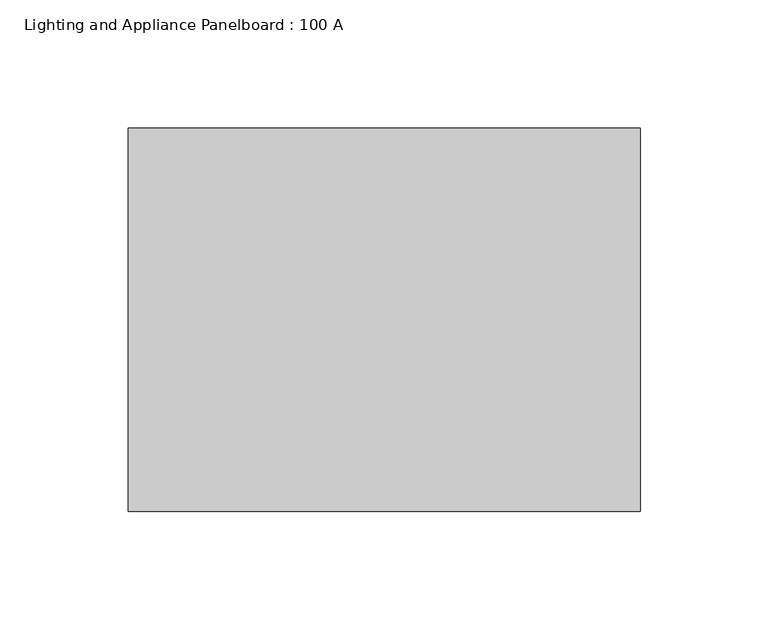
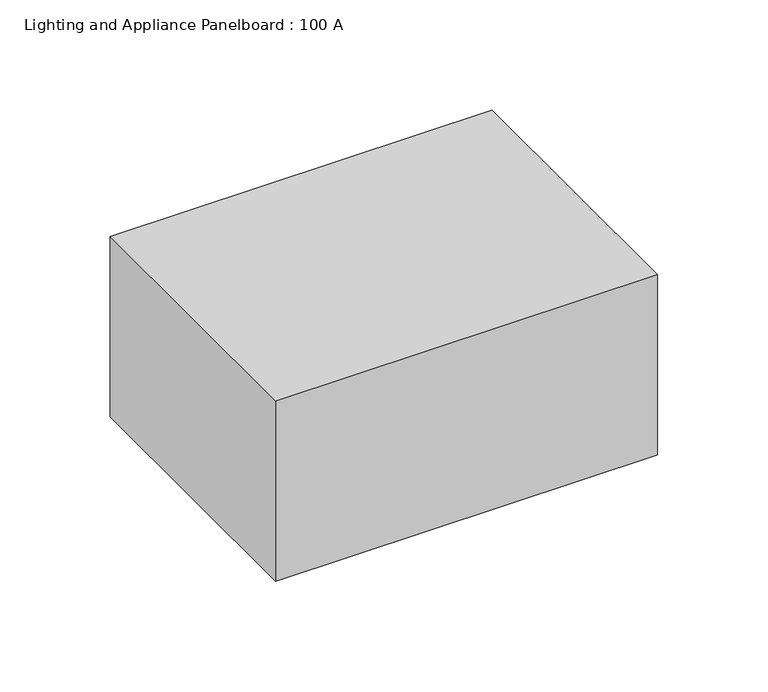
"""IFC4 building model written with IfcOpenShell, lengths in millimetres: proxy geometry, Lighting and Appliance Panelboard : 100 A."""

from ifc_helpers import new_model, si_unit, frame, origin, place, context, project, spatial, polyline, outline, extrude, source, transform, mapped, element, save


def lighting_and_appliance_panelboard_100_a_b21e7274(model_context):
    return source(origin(), model_context, "Body", "SweptSolid", [
        extrude(outline(polyline([(100.0, -344.1), (100.0, -494.1), (-100.0, -494.1), (-100.0, -344.1), (100.0, -344.1)])), frame((0.0, 0.0, -100.0), z_axis=(0.0, 0.0, 1.0), x_axis=(1.0, 0.0, 0.0)), (0.0, 0.0, 1.0), 100.0),
    ])


if __name__ == "__main__":
    model = new_model("IFC4")
    model_context = context("Model", 3, world=origin())
    ifc_project = project(units=[si_unit("LENGTHUNIT", "METRE", prefix="MILLI")], contexts=[model_context])
    site = spatial("IfcSite", under=ifc_project)
    building = spatial("IfcBuilding", under=site)
    placement = place(None, origin())
    lighting_and_appliance_panelboard_100_a_shape = lighting_and_appliance_panelboard_100_a_b21e7274(model_context)
    element("IfcBuildingElementProxy", 1, Name="Lighting and Appliance Panelboard : 100 A", ObjectType="Lighting and Appliance Panelboard : 100 A", at=placement, inside=building, context=model_context, shape_type="MappedRepresentation", body=[
        mapped(lighting_and_appliance_panelboard_100_a_shape, transform((0.0, 0.0, 0.0), x_axis=(1.0, 0.0, 0.0), y_axis=(0.0, 1.0, 0.0), z_axis=(0.0, 0.0, 1.0))),
    ])
    save(model, "model.ifc")
